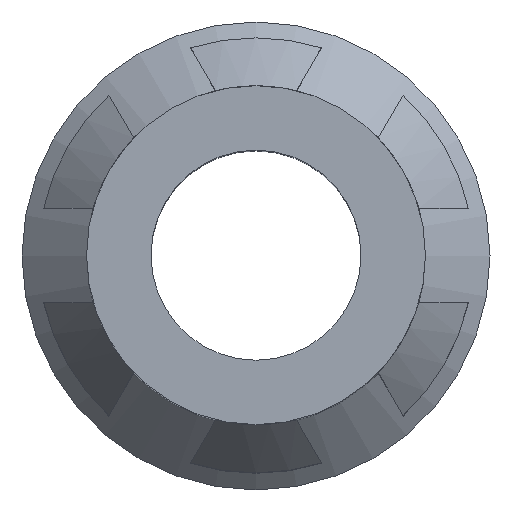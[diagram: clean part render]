
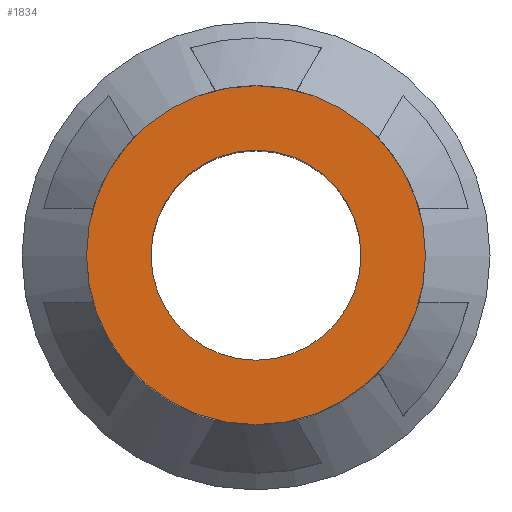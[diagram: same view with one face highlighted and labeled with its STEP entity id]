
A CAD part, top view. The second image highlights one B-rep face of the part: STEP entity #1834.
In plain terms, the highlighted planar face has unit normal (0, 0, 1).
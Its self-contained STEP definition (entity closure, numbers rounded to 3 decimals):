
#20 = VERTEX_POINT ( 'NONE', #1059 ) ;
#31 = EDGE_LOOP ( 'NONE', ( #219 ) ) ;
#38 = PLANE ( 'NONE',  #729 ) ;
#219 = ORIENTED_EDGE ( 'NONE', *, *, #1030, .F. ) ;
#343 = FACE_OUTER_BOUND ( 'NONE', #31, .T. ) ;
#477 = VERTEX_POINT ( 'NONE', #2095 ) ;
#567 = DIRECTION ( 'NONE',  ( 0., 0., -1. ) ) ;
#729 = AXIS2_PLACEMENT_3D ( 'NONE', #907, #567, #1775 ) ;
#880 = CIRCLE ( 'NONE', #1344, 0.889 ) ;
#907 = CARTESIAN_POINT ( 'NONE',  ( 11.503, 0., -14.161 ) ) ;
#979 = DIRECTION ( 'NONE',  ( 0., 0., -1. ) ) ;
#1018 = CARTESIAN_POINT ( 'NONE',  ( 10.068, 0., -14.161 ) ) ;
#1030 = EDGE_CURVE ( 'NONE', #477, #477, #1964, .T. ) ;
#1059 = CARTESIAN_POINT ( 'NONE',  ( 9.179, 0., -14.161 ) ) ;
#1192 = DIRECTION ( 'NONE',  ( -1., 0., 0. ) ) ;
#1211 = FACE_BOUND ( 'NONE', #1366, .T. ) ;
#1344 = AXIS2_PLACEMENT_3D ( 'NONE', #2004, #979, #2181 ) ;
#1366 = EDGE_LOOP ( 'NONE', ( #1373 ) ) ;
#1373 = ORIENTED_EDGE ( 'NONE', *, *, #1641, .T. ) ;
#1641 = EDGE_CURVE ( 'NONE', #20, #20, #880, .T. ) ;
#1775 = DIRECTION ( 'NONE',  ( -1., 0., 0. ) ) ;
#1834 = ADVANCED_FACE ( 'NONE', ( #1211, #343 ), #38, .F. ) ;
#1964 = CIRCLE ( 'NONE', #2016, 1.435 ) ;
#2004 = CARTESIAN_POINT ( 'NONE',  ( 10.068, 0., -14.161 ) ) ;
#2016 = AXIS2_PLACEMENT_3D ( 'NONE', #1018, #2219, #1192 ) ;
#2095 = CARTESIAN_POINT ( 'NONE',  ( 8.633, 0., -14.161 ) ) ;
#2181 = DIRECTION ( 'NONE',  ( -1., 0., 0. ) ) ;
#2219 = DIRECTION ( 'NONE',  ( 0., 0., -1. ) ) ;
